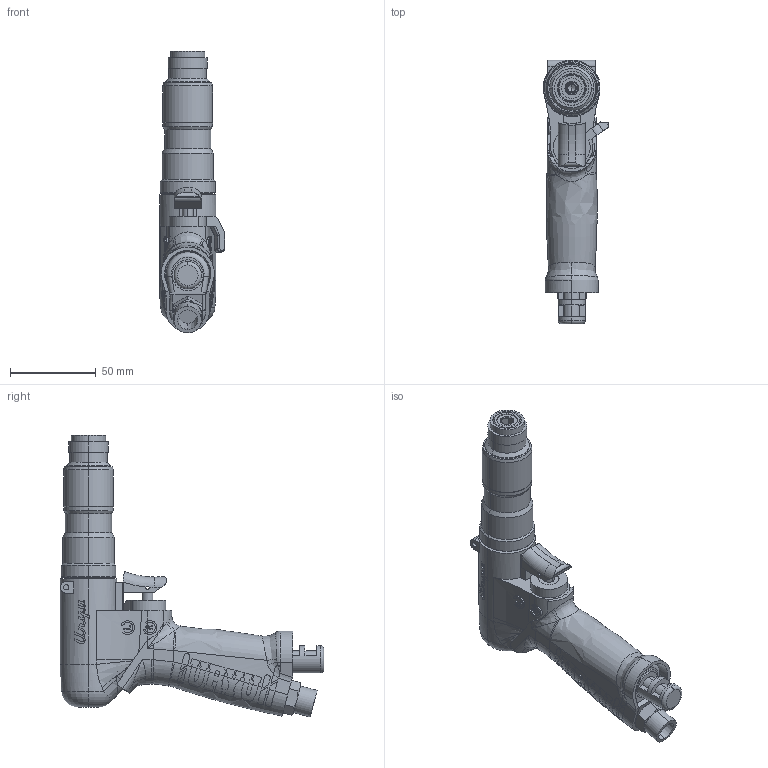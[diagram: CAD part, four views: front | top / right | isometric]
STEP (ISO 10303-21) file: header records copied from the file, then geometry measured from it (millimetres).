
FILE_DESCRIPTION (( 'STEP AP203' ), '1' );
FILE_NAME ('US-LT31PB-11.STEP', '2006-03-22T04:06:53', ( '' ), ( '' ), 'SwSTEP 2.0', 'SolidWorks 2003240', '' );
FILE_SCHEMA (( 'CONFIG_CONTROL_DESIGN' ));
Length unit declared in the file: millimetre
Products named in the file (9): 4623697_US-LT31PB-11_蹬怮椔; US-LT31PB-11; 4713192_US-LT31PB-11_蹬怮椔; 4715676_US-LT31PB-11_蹬怮椔; 4420255_US-LT31PB-11_蹬怮椔; 4802128_US-LT31PB-11_蹬怮椔; 1771075_US-LT31PB-11_蹬怮椔; 9810020_US-LT31PB-11_蹬怮椔; 1748428_US-LT31PB-11_蹬怮椔
Assembly tree (8 placements, depth 2):
  US-LT31PB-11
    4623697_US-LT31PB-11_蹬怮椔
    4802128_US-LT31PB-11_蹬怮椔
    4715676_US-LT31PB-11_蹬怮椔
    4420255_US-LT31PB-11_蹬怮椔
    1771075_US-LT31PB-11_蹬怮椔
    9810020_US-LT31PB-11_蹬怮椔
    1748428_US-LT31PB-11_蹬怮椔
    4713192_US-LT31PB-11_蹬怮椔
Bounding box: 38.37 x 154 x 164.71 mm (x, y, z)
Volume: 227249.2 mm3; surface area: 61563 mm2
Topology: 8 solids, 8 shells, 1217 faces, 3338 edges, 2164 vertices
Faces by surface type: plane 619, cylinder 270, bspline 261, cone 42, torus 23, sphere 2
Entity records: 149866 total; most frequent: CARTESIAN_POINT 122455, ORIENTED_EDGE 6642, DIRECTION 3939, EDGE_CURVE 3321, VERTEX_POINT 2161, AXIS2_PLACEMENT_3D 1392, B_SPLINE_CURVE_WITH_KNOTS 1329, EDGE_LOOP 1268
